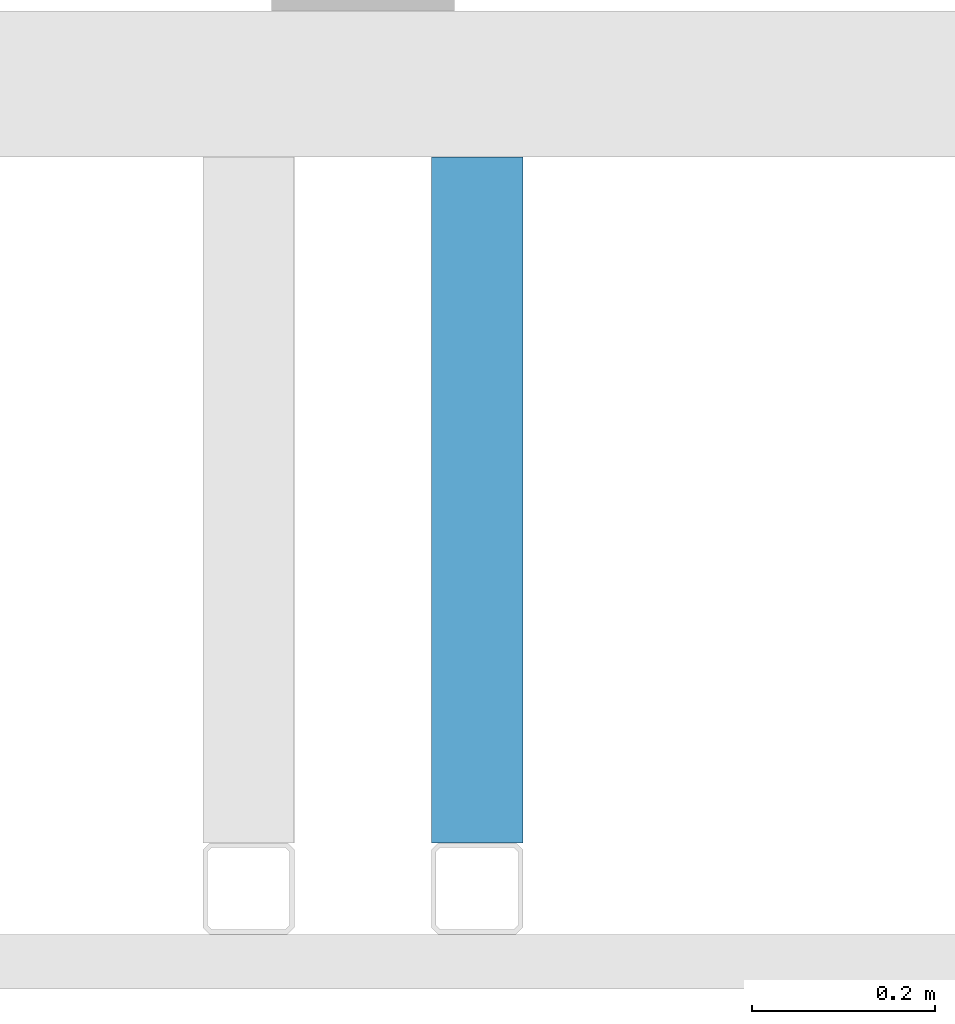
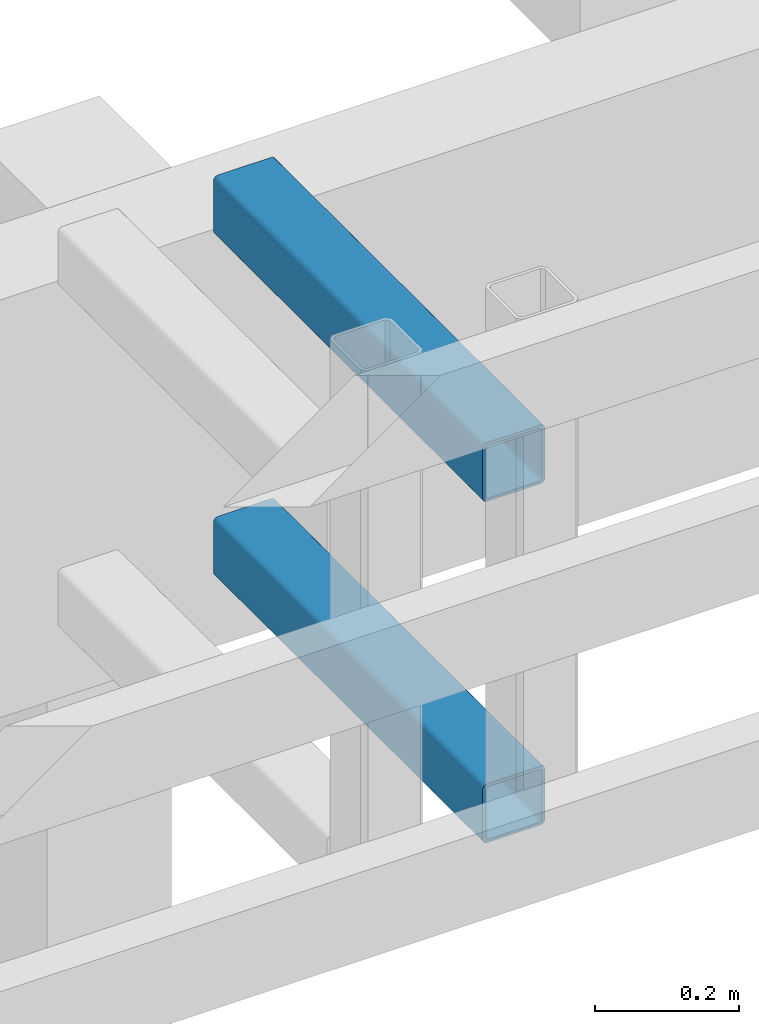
# One storey, part 6 of 42: 2 members.
"""IFC4 building model written with IfcOpenShell, lengths in metres."""

from ifc_helpers import new_model, entity, si_unit, converted_unit, derived_unit, frame, origin, place, context, subcontext, project, spatial, faceted_brep, material, element, save


model = new_model("IFC4")

# Units and contexts
model_context = context("Model", 3, precision=1e-05, world=origin())
plan_context = context("Plan", 2, precision=1e-05, world=origin())
body_context = subcontext(model_context, "Body", "Model", "MODEL_VIEW")
ifc_project = project(units=[si_unit("LENGTHUNIT", "METRE"), si_unit("AREAUNIT", "SQUARE_METRE"), si_unit("VOLUMEUNIT", "CUBIC_METRE"), si_unit("MASSUNIT", "GRAM", prefix="KILO"), converted_unit("PLANEANGLEUNIT", "DEGREE", entity("IfcPlaneAngleMeasure", 0.0174532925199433), si_unit("PLANEANGLEUNIT", "RADIAN"), dimensions=[0, 0, 0, 0, 0, 0, 0]), derived_unit("THERMALTRANSMITTANCEUNIT", [(si_unit("POWERUNIT", "WATT"), 1), (si_unit("THERMODYNAMICTEMPERATUREUNIT", "KELVIN"), -1), (si_unit("LENGTHUNIT", "METRE"), -2)]), derived_unit("VOLUMETRICFLOWRATEUNIT", [(si_unit("LENGTHUNIT", "METRE"), 3), (converted_unit("TIMEUNIT", "hour", entity("IfcTimeMeasure", 3600.0), si_unit("TIMEUNIT", "SECOND"), dimensions=[0, 0, 1, 0, 0, 0, 0]), -1), (si_unit("LENGTHUNIT", "METRE"), -1)])], contexts=[model_context, plan_context])

# Site, building, storey
site_placement = place(None, origin())
site = spatial("IfcSite", under=ifc_project, at=site_placement, Name="Site", CompositionType="ELEMENT")
building_placement = place(site_placement, origin())
building = spatial("IfcBuilding", under=site, at=building_placement, Name="Admin", CompositionType="ELEMENT")
storey_placement = place(building_placement, frame((0.0, 0.0, 6.61)))
storey = spatial("IfcBuildingStorey", under=building, at=storey_placement, Name="02-Etage2", CompositionType="ELEMENT", Elevation=6.61)

# Members
ifc_material_1 = material(Name="S235")
member_1_placement = place(storey_placement, frame((29.7448010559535, 11.1194493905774, 2.28)))
element("IfcMember", 1, at=member_1_placement, inside=storey, material=ifc_material_1, Name="Bandeau R+2", context=body_context, shape_type="Brep", body=[
    faceted_brep([(0.095, 0.0, 0.09), (0.095, 0.0, 0.01), (0.0950000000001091, 0.749999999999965, 0.01), (0.0950000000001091, 0.749999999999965, 0.09), (0.0949240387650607, 0.0, 0.0908682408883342), (0.0949240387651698, 0.749999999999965, 0.0908682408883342), (0.0946984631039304, 0.0, 0.0917101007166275), (0.0946984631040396, 0.749999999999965, 0.0917101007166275), (0.0943301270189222, 0.0, 0.0925), (0.0943301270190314, 0.749999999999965, 0.0925), (0.0938302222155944, 0.0, 0.0932139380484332), (0.0938302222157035, 0.749999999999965, 0.0932139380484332), (0.0932139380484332, 1.81898940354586e-15, 0.0938302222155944), (0.0932139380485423, 0.749999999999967, 0.0938302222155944), (0.0925, 1.81898940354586e-15, 0.0943301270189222), (0.0925000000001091, 0.749999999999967, 0.0943301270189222), (0.0917101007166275, 1.81898940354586e-15, 0.0946984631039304), (0.0917101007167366, 0.749999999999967, 0.0946984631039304), (0.090868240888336, 1.81898940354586e-15, 0.0949240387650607), (0.0908682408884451, 0.749999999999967, 0.0949240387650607), (0.09, 1.81898940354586e-15, 0.095), (0.0900000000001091, 0.749999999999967, 0.095), (0.01, 1.2732925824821e-14, 0.095), (0.0100000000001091, 0.749999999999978, 0.095), (0.009131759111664, 1.2732925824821e-14, 0.0949240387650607), (0.00913175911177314, 0.749999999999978, 0.0949240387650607), (0.00828989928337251, 1.2732925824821e-14, 0.0946984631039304), (0.00828989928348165, 0.749999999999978, 0.0946984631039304), (0.0075, 1.2732925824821e-14, 0.0943301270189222), (0.00750000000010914, 0.749999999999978, 0.0943301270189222), (0.00678606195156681, 1.2732925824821e-14, 0.0938302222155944), (0.00678606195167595, 0.749999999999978, 0.0938302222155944), (0.0061697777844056, 1.45519152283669e-14, 0.0932139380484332), (0.00616977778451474, 0.74999999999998, 0.0932139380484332), (0.00566987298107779, 1.45519152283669e-14, 0.0925), (0.00566987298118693, 0.74999999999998, 0.0925), (0.00530153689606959, 1.45519152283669e-14, 0.0917101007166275), (0.00530153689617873, 0.74999999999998, 0.0917101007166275), (0.00507596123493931, 1.45519152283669e-14, 0.0908682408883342), (0.00507596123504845, 0.74999999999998, 0.0908682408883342), (0.005, 1.45519152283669e-14, 0.09), (0.00500000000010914, 0.74999999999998, 0.09), (0.005, 1.45519152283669e-14, 0.01), (0.00500000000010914, 0.74999999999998, 0.01), (0.00507596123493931, 1.45519152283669e-14, 0.00913175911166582), (0.00507596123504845, 0.74999999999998, 0.00913175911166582), (0.00530153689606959, 1.45519152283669e-14, 0.00828989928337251), (0.00530153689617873, 0.74999999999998, 0.00828989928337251), (0.00566987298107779, 1.45519152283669e-14, 0.0075), (0.00566987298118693, 0.74999999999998, 0.0075), (0.0061697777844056, 1.45519152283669e-14, 0.00678606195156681), (0.00616977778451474, 0.74999999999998, 0.00678606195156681), (0.00678606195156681, 1.2732925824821e-14, 0.0061697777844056), (0.00678606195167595, 0.749999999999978, 0.0061697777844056), (0.0075, 1.2732925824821e-14, 0.00566987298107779), (0.00750000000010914, 0.749999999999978, 0.00566987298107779), (0.00828989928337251, 1.2732925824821e-14, 0.00530153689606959), (0.00828989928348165, 0.749999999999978, 0.00530153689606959), (0.009131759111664, 1.2732925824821e-14, 0.00507596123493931), (0.00913175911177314, 0.749999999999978, 0.00507596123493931), (0.01, 1.2732925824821e-14, 0.005), (0.0100000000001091, 0.749999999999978, 0.005), (0.09, 1.81898940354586e-15, 0.005), (0.0900000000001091, 0.749999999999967, 0.005), (0.090868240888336, 1.81898940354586e-15, 0.00507596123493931), (0.0908682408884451, 0.749999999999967, 0.00507596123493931), (0.0917101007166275, 1.81898940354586e-15, 0.00530153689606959), (0.0917101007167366, 0.749999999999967, 0.00530153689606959), (0.0925, 1.81898940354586e-15, 0.00566987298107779), (0.0925000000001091, 0.749999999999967, 0.00566987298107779), (0.0932139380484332, 1.81898940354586e-15, 0.0061697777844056), (0.0932139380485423, 0.749999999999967, 0.0061697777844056), (0.0938302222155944, 0.0, 0.00678606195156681), (0.0938302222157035, 0.749999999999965, 0.00678606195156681), (0.0943301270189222, 0.0, 0.0075), (0.0943301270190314, 0.749999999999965, 0.0075), (0.0946984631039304, 0.0, 0.00828989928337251), (0.0946984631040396, 0.749999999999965, 0.00828989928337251), (0.0949240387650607, 0.0, 0.00913175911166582), (0.0949240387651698, 0.749999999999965, 0.00913175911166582), (0.0075, 1.2732925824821e-14, 0.1), (0.00619763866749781, 1.45519152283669e-14, 0.099886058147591), (0.00619763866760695, 0.74999999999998, 0.099886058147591), (0.00750000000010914, 0.749999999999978, 0.1), (0.0925, 1.81898940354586e-15, 0.1), (0.0925000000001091, 0.749999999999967, 0.1), (0.0938023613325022, 0.0, 0.099886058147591), (0.0938023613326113, 0.749999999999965, 0.099886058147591), (0.0950651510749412, 0.0, 0.0995476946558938), (0.0950651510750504, 0.749999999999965, 0.0995476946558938), (0.09625, 0.0, 0.0989951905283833), (0.0962500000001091, 0.749999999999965, 0.0989951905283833), (0.097320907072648, 0.0, 0.0982453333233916), (0.0973209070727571, 0.749999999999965, 0.0982453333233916), (0.0982453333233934, 0.0, 0.0973209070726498), (0.0982453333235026, 0.749999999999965, 0.0973209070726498), (0.0989951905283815, 0.0, 0.09625), (0.0989951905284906, 0.749999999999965, 0.09625), (0.0995476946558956, 0.0, 0.0950651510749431), (0.0995476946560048, 0.749999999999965, 0.0950651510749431), (0.0998860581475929, 0.0, 0.0938023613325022), (0.099886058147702, 0.749999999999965, 0.0938023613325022), (0.1, 0.0, 0.0925), (0.100000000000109, 0.749999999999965, 0.0925), (0.0998860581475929, 0.0, 0.00619763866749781), (0.1, 0.0, 0.0075), (0.100000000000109, 0.749999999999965, 0.0075), (0.099886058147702, 0.749999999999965, 0.00619763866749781), (0.0995476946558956, 0.0, 0.00493484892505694), (0.0995476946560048, 0.749999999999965, 0.00493484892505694), (0.0989951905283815, 0.0, 0.00375), (0.0989951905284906, 0.749999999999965, 0.00375), (0.0982453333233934, 0.0, 0.00267909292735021), (0.0982453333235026, 0.749999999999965, 0.00267909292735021), (0.097320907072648, 0.0, 0.00175466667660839), (0.0973209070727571, 0.749999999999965, 0.00175466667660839), (0.09625, 0.0, 0.00100480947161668), (0.0962500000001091, 0.749999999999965, 0.00100480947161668), (0.0950651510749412, 0.0, 0.000452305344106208), (0.0950651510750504, 0.749999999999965, 0.000452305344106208), (0.0938023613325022, 0.0, 0.000113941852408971), (0.0938023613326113, 0.749999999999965, 0.000113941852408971), (0.0925, 1.81898940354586e-15, 0.0), (0.0925000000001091, 0.749999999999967, 0.0), (0.0075, 1.2732925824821e-14, 0.0), (0.00750000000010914, 0.749999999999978, 0.0), (0.00619763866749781, 1.45519152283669e-14, 0.000113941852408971), (0.00619763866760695, 0.74999999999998, 0.000113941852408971), (0.00493484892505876, 1.45519152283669e-14, 0.000452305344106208), (0.0049348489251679, 0.74999999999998, 0.000452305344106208), (0.00375, 1.45519152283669e-14, 0.00100480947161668), (0.00375000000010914, 0.74999999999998, 0.00100480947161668), (0.00267909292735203, 1.45519152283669e-14, 0.00175466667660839), (0.00267909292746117, 0.74999999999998, 0.00175466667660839), (0.00175466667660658, 1.45519152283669e-14, 0.00267909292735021), (0.00175466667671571, 0.74999999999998, 0.00267909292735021), (0.0010048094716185, 1.45519152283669e-14, 0.00375), (0.00100480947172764, 0.74999999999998, 0.00375), (0.000452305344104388, 1.45519152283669e-14, 0.00493484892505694), (0.000452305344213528, 0.74999999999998, 0.00493484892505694), (0.000113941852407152, 1.45519152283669e-14, 0.00619763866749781), (0.000113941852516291, 0.74999999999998, 0.00619763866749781), (0.0, 0.0, 0.0075), (1.09139364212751e-13, 0.74999999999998, 0.0075), (0.000113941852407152, 1.45519152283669e-14, 0.0938023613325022), (0.0, 0.0, 0.0925), (1.09139364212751e-13, 0.74999999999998, 0.0925), (0.000113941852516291, 0.74999999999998, 0.0938023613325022), (0.000452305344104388, 1.45519152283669e-14, 0.0950651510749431), (0.000452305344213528, 0.74999999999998, 0.0950651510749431), (0.0010048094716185, 1.45519152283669e-14, 0.09625), (0.00100480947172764, 0.74999999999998, 0.09625), (0.00175466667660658, 1.45519152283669e-14, 0.0973209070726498), (0.00175466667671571, 0.74999999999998, 0.0973209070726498), (0.00267909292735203, 1.45519152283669e-14, 0.0982453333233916), (0.00267909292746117, 0.74999999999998, 0.0982453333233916), (0.00375, 1.45519152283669e-14, 0.0989951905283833), (0.00375000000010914, 0.74999999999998, 0.0989951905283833), (0.00493484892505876, 1.45519152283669e-14, 0.0995476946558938), (0.0049348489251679, 0.74999999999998, 0.0995476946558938)], [[[0, 1, 2, 3]], [[4, 0, 3, 5]], [[6, 4, 5, 7]], [[8, 6, 7, 9]], [[10, 8, 9, 11]], [[12, 10, 11, 13]], [[14, 12, 13, 15]], [[16, 14, 15, 17]], [[18, 16, 17, 19]], [[20, 18, 19, 21]], [[22, 20, 21, 23]], [[24, 22, 23, 25]], [[26, 24, 25, 27]], [[28, 26, 27, 29]], [[30, 28, 29, 31]], [[32, 30, 31, 33]], [[34, 32, 33, 35]], [[36, 34, 35, 37]], [[38, 36, 37, 39]], [[40, 38, 39, 41]], [[42, 40, 41, 43]], [[44, 42, 43, 45]], [[46, 44, 45, 47]], [[48, 46, 47, 49]], [[50, 48, 49, 51]], [[52, 50, 51, 53]], [[54, 52, 53, 55]], [[56, 54, 55, 57]], [[58, 56, 57, 59]], [[60, 58, 59, 61]], [[62, 60, 61, 63]], [[64, 62, 63, 65]], [[66, 64, 65, 67]], [[68, 66, 67, 69]], [[70, 68, 69, 71]], [[72, 70, 71, 73]], [[74, 72, 73, 75]], [[76, 74, 75, 77]], [[78, 76, 77, 79]], [[1, 78, 79, 2]], [[80, 81, 82, 83]], [[84, 80, 83, 85]], [[86, 84, 85, 87]], [[88, 86, 87, 89]], [[90, 88, 89, 91]], [[92, 90, 91, 93]], [[94, 92, 93, 95]], [[96, 94, 95, 97]], [[98, 96, 97, 99]], [[100, 98, 99, 101]], [[102, 100, 101, 103]], [[104, 105, 106, 107]], [[108, 104, 107, 109]], [[110, 108, 109, 111]], [[112, 110, 111, 113]], [[114, 112, 113, 115]], [[116, 114, 115, 117]], [[118, 116, 117, 119]], [[120, 118, 119, 121]], [[122, 120, 121, 123]], [[124, 122, 123, 125]], [[126, 124, 125, 127]], [[128, 126, 127, 129]], [[130, 128, 129, 131]], [[132, 130, 131, 133]], [[134, 132, 133, 135]], [[136, 134, 135, 137]], [[138, 136, 137, 139]], [[140, 138, 139, 141]], [[142, 140, 141, 143]], [[144, 145, 146, 147]], [[148, 144, 147, 149]], [[150, 148, 149, 151]], [[152, 150, 151, 153]], [[154, 152, 153, 155]], [[156, 154, 155, 157]], [[158, 156, 157, 159]], [[81, 158, 159, 82]], [[146, 143, 141, 139, 137, 135, 133, 131, 129, 127, 125, 123, 121, 119, 117, 115, 113, 111, 109, 107, 106, 103, 101, 99, 97, 95, 93, 91, 89, 87, 85, 83, 82, 159, 157, 155, 153, 151, 149, 147], [2, 79, 77, 75, 73, 71, 69, 67, 65, 63, 61, 59, 57, 55, 53, 51, 49, 47, 45, 43, 41, 39, 37, 35, 33, 31, 29, 27, 25, 23, 21, 19, 17, 15, 13, 11, 9, 7, 5, 3]], [[103, 106, 105, 102]], [[102, 105, 104, 108, 110, 112, 114, 116, 118, 120, 122, 124, 126, 128, 130, 132, 134, 136, 138, 140, 142, 145, 144, 148, 150, 152, 154, 156, 158, 81, 80, 84, 86, 88, 90, 92, 94, 96, 98, 100], [1, 0, 4, 6, 8, 10, 12, 14, 16, 18, 20, 22, 24, 26, 28, 30, 32, 34, 36, 38, 40, 42, 44, 46, 48, 50, 52, 54, 56, 58, 60, 62, 64, 66, 68, 70, 72, 74, 76, 78]], [[145, 142, 143, 146]]], orient=[[False], [False], [False], [False], [False], [False], [False], [False], [False], [False], [False], [False], [False], [False], [False], [False], [False], [False], [False], [False], [False], [False], [False], [False], [False], [False], [False], [False], [False], [False], [False], [False], [False], [False], [False], [False], [False], [False], [False], [False], [False], [False], [False], [False], [False], [False], [False], [False], [False], [False], [False], [False], [False], [False], [False], [False], [False], [False], [False], [False], [False], [False], [False], [False], [False], [False], [False], [False], [False], [False], [False], [False], [False], [False], [False], [False], [False], [False], [False, False], [False], [False, False], [False]]),
])
ifc_material_2 = material(Name="S235")
member_2_placement = place(storey_placement, frame((29.7448010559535, 11.1194493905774, 2.86)))
element("IfcMember", 2, at=member_2_placement, inside=storey, material=ifc_material_2, Name="Bandeau R+2", context=body_context, shape_type="Brep", body=[
    faceted_brep([(0.095, 0.0, 0.09), (0.095, 0.0, 0.01), (0.0950000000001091, 0.74999999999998, 0.01), (0.0950000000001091, 0.74999999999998, 0.09), (0.0949240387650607, 0.0, 0.0908682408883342), (0.0949240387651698, 0.74999999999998, 0.0908682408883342), (0.0946984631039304, 0.0, 0.0917101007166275), (0.0946984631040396, 0.74999999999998, 0.0917101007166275), (0.0943301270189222, 0.0, 0.0925), (0.0943301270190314, 0.74999999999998, 0.0925), (0.0938302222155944, 0.0, 0.0932139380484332), (0.0938302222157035, 0.74999999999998, 0.0932139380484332), (0.0932139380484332, 1.81898940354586e-15, 0.0938302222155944), (0.0932139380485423, 0.749999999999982, 0.0938302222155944), (0.0925, 1.81898940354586e-15, 0.0943301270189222), (0.0925000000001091, 0.749999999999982, 0.0943301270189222), (0.0917101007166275, 1.81898940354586e-15, 0.0946984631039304), (0.0917101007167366, 0.749999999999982, 0.0946984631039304), (0.090868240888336, 1.81898940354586e-15, 0.0949240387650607), (0.0908682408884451, 0.749999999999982, 0.0949240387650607), (0.09, 1.81898940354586e-15, 0.095), (0.0900000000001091, 0.749999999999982, 0.095), (0.01, 1.2732925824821e-14, 0.095), (0.0100000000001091, 0.749999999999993, 0.095), (0.009131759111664, 1.2732925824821e-14, 0.0949240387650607), (0.00913175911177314, 0.749999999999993, 0.0949240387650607), (0.00828989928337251, 1.2732925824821e-14, 0.0946984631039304), (0.00828989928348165, 0.749999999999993, 0.0946984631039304), (0.0075, 1.2732925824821e-14, 0.0943301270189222), (0.00750000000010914, 0.749999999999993, 0.0943301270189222), (0.00678606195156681, 1.2732925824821e-14, 0.0938302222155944), (0.00678606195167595, 0.749999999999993, 0.0938302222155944), (0.0061697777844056, 1.45519152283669e-14, 0.0932139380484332), (0.00616977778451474, 0.749999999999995, 0.0932139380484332), (0.00566987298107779, 1.45519152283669e-14, 0.0925), (0.00566987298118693, 0.749999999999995, 0.0925), (0.00530153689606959, 1.45519152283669e-14, 0.0917101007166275), (0.00530153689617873, 0.749999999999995, 0.0917101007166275), (0.00507596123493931, 1.45519152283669e-14, 0.0908682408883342), (0.00507596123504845, 0.749999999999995, 0.0908682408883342), (0.005, 1.45519152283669e-14, 0.09), (0.00500000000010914, 0.749999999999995, 0.09), (0.005, 1.45519152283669e-14, 0.01), (0.00500000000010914, 0.749999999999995, 0.01), (0.00507596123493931, 1.45519152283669e-14, 0.00913175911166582), (0.00507596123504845, 0.749999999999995, 0.00913175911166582), (0.00530153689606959, 1.45519152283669e-14, 0.00828989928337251), (0.00530153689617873, 0.749999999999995, 0.00828989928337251), (0.00566987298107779, 1.45519152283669e-14, 0.0075), (0.00566987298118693, 0.749999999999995, 0.0075), (0.0061697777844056, 1.45519152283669e-14, 0.00678606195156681), (0.00616977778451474, 0.749999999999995, 0.00678606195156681), (0.00678606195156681, 1.2732925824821e-14, 0.0061697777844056), (0.00678606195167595, 0.749999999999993, 0.0061697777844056), (0.0075, 1.2732925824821e-14, 0.00566987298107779), (0.00750000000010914, 0.749999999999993, 0.00566987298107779), (0.00828989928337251, 1.2732925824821e-14, 0.00530153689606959), (0.00828989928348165, 0.749999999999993, 0.00530153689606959), (0.009131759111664, 1.2732925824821e-14, 0.00507596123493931), (0.00913175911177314, 0.749999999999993, 0.00507596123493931), (0.01, 1.2732925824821e-14, 0.005), (0.0100000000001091, 0.749999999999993, 0.005), (0.09, 1.81898940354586e-15, 0.005), (0.0900000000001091, 0.749999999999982, 0.005), (0.090868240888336, 1.81898940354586e-15, 0.00507596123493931), (0.0908682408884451, 0.749999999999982, 0.00507596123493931), (0.0917101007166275, 1.81898940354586e-15, 0.00530153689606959), (0.0917101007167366, 0.749999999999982, 0.00530153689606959), (0.0925, 1.81898940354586e-15, 0.00566987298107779), (0.0925000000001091, 0.749999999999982, 0.00566987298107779), (0.0932139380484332, 1.81898940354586e-15, 0.0061697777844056), (0.0932139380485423, 0.749999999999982, 0.0061697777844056), (0.0938302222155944, 0.0, 0.00678606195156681), (0.0938302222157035, 0.74999999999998, 0.00678606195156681), (0.0943301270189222, 0.0, 0.0075), (0.0943301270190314, 0.74999999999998, 0.0075), (0.0946984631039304, 0.0, 0.00828989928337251), (0.0946984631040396, 0.74999999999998, 0.00828989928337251), (0.0949240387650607, 0.0, 0.00913175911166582), (0.0949240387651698, 0.74999999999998, 0.00913175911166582), (0.0075, 1.2732925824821e-14, 0.1), (0.00619763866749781, 1.45519152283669e-14, 0.099886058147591), (0.00619763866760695, 0.749999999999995, 0.099886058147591), (0.00750000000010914, 0.749999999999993, 0.1), (0.0925, 1.81898940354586e-15, 0.1), (0.0925000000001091, 0.749999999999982, 0.1), (0.0938023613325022, 0.0, 0.099886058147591), (0.0938023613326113, 0.74999999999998, 0.099886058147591), (0.0950651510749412, 0.0, 0.0995476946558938), (0.0950651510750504, 0.74999999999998, 0.0995476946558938), (0.09625, 0.0, 0.0989951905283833), (0.0962500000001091, 0.74999999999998, 0.0989951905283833), (0.097320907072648, 0.0, 0.0982453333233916), (0.0973209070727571, 0.74999999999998, 0.0982453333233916), (0.0982453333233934, 0.0, 0.0973209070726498), (0.0982453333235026, 0.74999999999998, 0.0973209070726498), (0.0989951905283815, 0.0, 0.09625), (0.0989951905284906, 0.74999999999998, 0.09625), (0.0995476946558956, 0.0, 0.0950651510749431), (0.0995476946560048, 0.74999999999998, 0.0950651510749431), (0.0998860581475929, 0.0, 0.0938023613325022), (0.099886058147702, 0.74999999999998, 0.0938023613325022), (0.1, 0.0, 0.0925), (0.100000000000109, 0.74999999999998, 0.0925), (0.0998860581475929, 0.0, 0.00619763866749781), (0.1, 0.0, 0.0075), (0.100000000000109, 0.74999999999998, 0.0075), (0.099886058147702, 0.74999999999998, 0.00619763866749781), (0.0995476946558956, 0.0, 0.00493484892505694), (0.0995476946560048, 0.74999999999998, 0.00493484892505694), (0.0989951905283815, 0.0, 0.00375), (0.0989951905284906, 0.74999999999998, 0.00375), (0.0982453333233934, 0.0, 0.00267909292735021), (0.0982453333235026, 0.74999999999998, 0.00267909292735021), (0.097320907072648, 0.0, 0.00175466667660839), (0.0973209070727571, 0.74999999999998, 0.00175466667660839), (0.09625, 0.0, 0.00100480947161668), (0.0962500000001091, 0.74999999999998, 0.00100480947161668), (0.0950651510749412, 0.0, 0.000452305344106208), (0.0950651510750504, 0.74999999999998, 0.000452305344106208), (0.0938023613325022, 0.0, 0.000113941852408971), (0.0938023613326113, 0.74999999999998, 0.000113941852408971), (0.0925, 1.81898940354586e-15, 0.0), (0.0925000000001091, 0.749999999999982, 0.0), (0.0075, 1.2732925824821e-14, 0.0), (0.00750000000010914, 0.749999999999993, 0.0), (0.00619763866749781, 1.45519152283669e-14, 0.000113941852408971), (0.00619763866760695, 0.749999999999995, 0.000113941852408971), (0.00493484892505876, 1.45519152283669e-14, 0.000452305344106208), (0.0049348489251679, 0.749999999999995, 0.000452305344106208), (0.00375, 1.45519152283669e-14, 0.00100480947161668), (0.00375000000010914, 0.749999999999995, 0.00100480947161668), (0.00267909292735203, 1.45519152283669e-14, 0.00175466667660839), (0.00267909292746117, 0.749999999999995, 0.00175466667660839), (0.00175466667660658, 1.45519152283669e-14, 0.00267909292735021), (0.00175466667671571, 0.749999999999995, 0.00267909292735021), (0.0010048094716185, 1.45519152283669e-14, 0.00375), (0.00100480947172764, 0.749999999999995, 0.00375), (0.000452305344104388, 1.45519152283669e-14, 0.00493484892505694), (0.000452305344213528, 0.749999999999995, 0.00493484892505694), (0.000113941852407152, 1.45519152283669e-14, 0.00619763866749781), (0.000113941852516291, 0.749999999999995, 0.00619763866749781), (0.0, 0.0, 0.0075), (1.09139364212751e-13, 0.749999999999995, 0.0075), (0.000113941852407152, 1.45519152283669e-14, 0.0938023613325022), (0.0, 0.0, 0.0925), (1.09139364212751e-13, 0.749999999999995, 0.0925), (0.000113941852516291, 0.749999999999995, 0.0938023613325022), (0.000452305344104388, 1.45519152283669e-14, 0.0950651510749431), (0.000452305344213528, 0.749999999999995, 0.0950651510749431), (0.0010048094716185, 1.45519152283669e-14, 0.09625), (0.00100480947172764, 0.749999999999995, 0.09625), (0.00175466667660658, 1.45519152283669e-14, 0.0973209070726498), (0.00175466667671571, 0.749999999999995, 0.0973209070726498), (0.00267909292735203, 1.45519152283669e-14, 0.0982453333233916), (0.00267909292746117, 0.749999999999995, 0.0982453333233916), (0.00375, 1.45519152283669e-14, 0.0989951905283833), (0.00375000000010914, 0.749999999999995, 0.0989951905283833), (0.00493484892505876, 1.45519152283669e-14, 0.0995476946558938), (0.0049348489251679, 0.749999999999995, 0.0995476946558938)], [[[0, 1, 2, 3]], [[4, 0, 3, 5]], [[6, 4, 5, 7]], [[8, 6, 7, 9]], [[10, 8, 9, 11]], [[12, 10, 11, 13]], [[14, 12, 13, 15]], [[16, 14, 15, 17]], [[18, 16, 17, 19]], [[20, 18, 19, 21]], [[22, 20, 21, 23]], [[24, 22, 23, 25]], [[26, 24, 25, 27]], [[28, 26, 27, 29]], [[30, 28, 29, 31]], [[32, 30, 31, 33]], [[34, 32, 33, 35]], [[36, 34, 35, 37]], [[38, 36, 37, 39]], [[40, 38, 39, 41]], [[42, 40, 41, 43]], [[44, 42, 43, 45]], [[46, 44, 45, 47]], [[48, 46, 47, 49]], [[50, 48, 49, 51]], [[52, 50, 51, 53]], [[54, 52, 53, 55]], [[56, 54, 55, 57]], [[58, 56, 57, 59]], [[60, 58, 59, 61]], [[62, 60, 61, 63]], [[64, 62, 63, 65]], [[66, 64, 65, 67]], [[68, 66, 67, 69]], [[70, 68, 69, 71]], [[72, 70, 71, 73]], [[74, 72, 73, 75]], [[76, 74, 75, 77]], [[78, 76, 77, 79]], [[1, 78, 79, 2]], [[80, 81, 82, 83]], [[84, 80, 83, 85]], [[86, 84, 85, 87]], [[88, 86, 87, 89]], [[90, 88, 89, 91]], [[92, 90, 91, 93]], [[94, 92, 93, 95]], [[96, 94, 95, 97]], [[98, 96, 97, 99]], [[100, 98, 99, 101]], [[102, 100, 101, 103]], [[104, 105, 106, 107]], [[108, 104, 107, 109]], [[110, 108, 109, 111]], [[112, 110, 111, 113]], [[114, 112, 113, 115]], [[116, 114, 115, 117]], [[118, 116, 117, 119]], [[120, 118, 119, 121]], [[122, 120, 121, 123]], [[124, 122, 123, 125]], [[126, 124, 125, 127]], [[128, 126, 127, 129]], [[130, 128, 129, 131]], [[132, 130, 131, 133]], [[134, 132, 133, 135]], [[136, 134, 135, 137]], [[138, 136, 137, 139]], [[140, 138, 139, 141]], [[142, 140, 141, 143]], [[144, 145, 146, 147]], [[148, 144, 147, 149]], [[150, 148, 149, 151]], [[152, 150, 151, 153]], [[154, 152, 153, 155]], [[156, 154, 155, 157]], [[158, 156, 157, 159]], [[81, 158, 159, 82]], [[146, 143, 141, 139, 137, 135, 133, 131, 129, 127, 125, 123, 121, 119, 117, 115, 113, 111, 109, 107, 106, 103, 101, 99, 97, 95, 93, 91, 89, 87, 85, 83, 82, 159, 157, 155, 153, 151, 149, 147], [2, 79, 77, 75, 73, 71, 69, 67, 65, 63, 61, 59, 57, 55, 53, 51, 49, 47, 45, 43, 41, 39, 37, 35, 33, 31, 29, 27, 25, 23, 21, 19, 17, 15, 13, 11, 9, 7, 5, 3]], [[103, 106, 105, 102]], [[102, 105, 104, 108, 110, 112, 114, 116, 118, 120, 122, 124, 126, 128, 130, 132, 134, 136, 138, 140, 142, 145, 144, 148, 150, 152, 154, 156, 158, 81, 80, 84, 86, 88, 90, 92, 94, 96, 98, 100], [1, 0, 4, 6, 8, 10, 12, 14, 16, 18, 20, 22, 24, 26, 28, 30, 32, 34, 36, 38, 40, 42, 44, 46, 48, 50, 52, 54, 56, 58, 60, 62, 64, 66, 68, 70, 72, 74, 76, 78]], [[145, 142, 143, 146]]], orient=[[False], [False], [False], [False], [False], [False], [False], [False], [False], [False], [False], [False], [False], [False], [False], [False], [False], [False], [False], [False], [False], [False], [False], [False], [False], [False], [False], [False], [False], [False], [False], [False], [False], [False], [False], [False], [False], [False], [False], [False], [False], [False], [False], [False], [False], [False], [False], [False], [False], [False], [False], [False], [False], [False], [False], [False], [False], [False], [False], [False], [False], [False], [False], [False], [False], [False], [False], [False], [False], [False], [False], [False], [False], [False], [False], [False], [False], [False], [False, False], [False], [False, False], [False]]),
])

save(model, "model.ifc")
